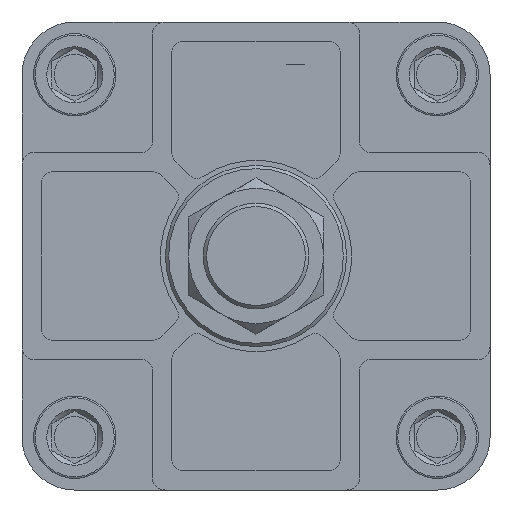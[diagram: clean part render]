
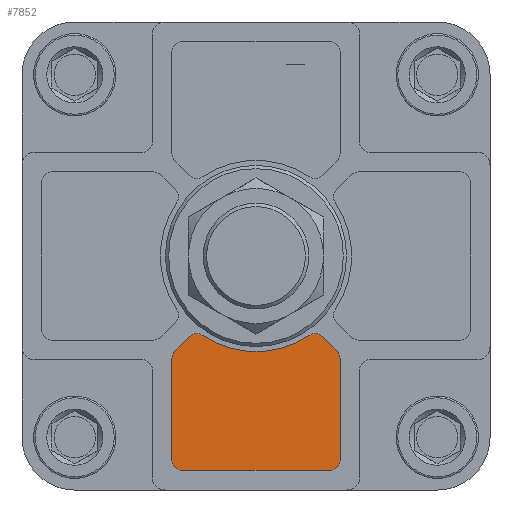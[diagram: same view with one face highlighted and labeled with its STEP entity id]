
A CAD part, front view. The second image highlights one B-rep face of the part: STEP entity #7852.
In plain terms, the highlighted planar face has unit normal (0, -1, 0).
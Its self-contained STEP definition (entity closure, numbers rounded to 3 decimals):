
#277=CIRCLE('',#8267,3.);
#278=CIRCLE('',#8268,3.);
#279=CIRCLE('',#8269,3.);
#280=CIRCLE('',#8270,3.);
#281=CIRCLE('',#8271,3.);
#282=CIRCLE('',#8272,29.);
#283=CIRCLE('',#8273,3.);
#667=ORIENTED_EDGE('',*,*,#2324,.F.);
#668=ORIENTED_EDGE('',*,*,#2325,.T.);
#669=ORIENTED_EDGE('',*,*,#2326,.F.);
#670=ORIENTED_EDGE('',*,*,#2327,.T.);
#671=ORIENTED_EDGE('',*,*,#2328,.F.);
#672=ORIENTED_EDGE('',*,*,#2329,.T.);
#673=ORIENTED_EDGE('',*,*,#2330,.F.);
#674=ORIENTED_EDGE('',*,*,#2331,.T.);
#675=ORIENTED_EDGE('',*,*,#2332,.F.);
#676=ORIENTED_EDGE('',*,*,#2333,.T.);
#677=ORIENTED_EDGE('',*,*,#2334,.F.);
#678=ORIENTED_EDGE('',*,*,#2335,.T.);
#2324=EDGE_CURVE('',#3154,#3155,#3747,.T.);
#2325=EDGE_CURVE('',#3154,#3156,#277,.F.);
#2326=EDGE_CURVE('',#3157,#3156,#3748,.T.);
#2327=EDGE_CURVE('',#3157,#3158,#278,.F.);
#2328=EDGE_CURVE('',#3159,#3158,#3749,.T.);
#2329=EDGE_CURVE('',#3159,#3160,#279,.F.);
#2330=EDGE_CURVE('',#3161,#3160,#3750,.T.);
#2331=EDGE_CURVE('',#3161,#3162,#280,.F.);
#2332=EDGE_CURVE('',#3163,#3162,#3751,.T.);
#2333=EDGE_CURVE('',#3163,#3164,#281,.F.);
#2334=EDGE_CURVE('',#3165,#3164,#282,.T.);
#2335=EDGE_CURVE('',#3165,#3155,#283,.F.);
#3154=VERTEX_POINT('',#10944);
#3155=VERTEX_POINT('',#10945);
#3156=VERTEX_POINT('',#10947);
#3157=VERTEX_POINT('',#10949);
#3158=VERTEX_POINT('',#10951);
#3159=VERTEX_POINT('',#10953);
#3160=VERTEX_POINT('',#10955);
#3161=VERTEX_POINT('',#10957);
#3162=VERTEX_POINT('',#10959);
#3163=VERTEX_POINT('',#10961);
#3164=VERTEX_POINT('',#10963);
#3165=VERTEX_POINT('',#10965);
#3747=LINE('',#10943,#4213);
#3748=LINE('',#10948,#4214);
#3749=LINE('',#10952,#4215);
#3750=LINE('',#10956,#4216);
#3751=LINE('',#10960,#4217);
#4213=VECTOR('',#9028,1000.);
#4214=VECTOR('',#9031,1000.);
#4215=VECTOR('',#9034,1000.);
#4216=VECTOR('',#9037,1000.);
#4217=VECTOR('',#9040,1000.);
#4676=EDGE_LOOP('',(#667,#668,#669,#670,#671,#672,#673,#674,#675,#676,#677,
#678));
#5198=FACE_BOUND('',#4676,.T.);
#5714=PLANE('',#8266);
#7852=ADVANCED_FACE('',(#5198),#5714,.F.);
#8266=AXIS2_PLACEMENT_3D('',#10942,#9026,#9027);
#8267=AXIS2_PLACEMENT_3D('',#10946,#9029,#9030);
#8268=AXIS2_PLACEMENT_3D('',#10950,#9032,#9033);
#8269=AXIS2_PLACEMENT_3D('',#10954,#9035,#9036);
#8270=AXIS2_PLACEMENT_3D('',#10958,#9038,#9039);
#8271=AXIS2_PLACEMENT_3D('',#10962,#9041,#9042);
#8272=AXIS2_PLACEMENT_3D('',#10964,#9043,#9044);
#8273=AXIS2_PLACEMENT_3D('',#10966,#9045,#9046);
#9026=DIRECTION('',(0.,1.,0.));
#9027=DIRECTION('',(0.,0.,1.));
#9028=DIRECTION('',(0.707,0.,0.707));
#9029=DIRECTION('',(0.,1.,0.));
#9030=DIRECTION('',(0.,0.,1.));
#9031=DIRECTION('',(0.,0.,1.));
#9032=DIRECTION('',(0.,1.,0.));
#9033=DIRECTION('',(0.,0.,1.));
#9034=DIRECTION('',(-1.,0.,0.));
#9035=DIRECTION('',(0.,1.,0.));
#9036=DIRECTION('',(0.,0.,1.));
#9037=DIRECTION('',(0.,0.,-1.));
#9038=DIRECTION('',(0.,1.,0.));
#9039=DIRECTION('',(0.,0.,1.));
#9040=DIRECTION('',(0.707,0.,-0.707));
#9041=DIRECTION('',(0.,1.,0.));
#9042=DIRECTION('',(0.,0.,1.));
#9043=DIRECTION('',(0.,-1.,0.));
#9044=DIRECTION('',(1.,0.,0.));
#9045=DIRECTION('',(0.,1.,0.));
#9046=DIRECTION('',(0.,0.,1.));
#10942=CARTESIAN_POINT('',(0.,-29.,0.));
#10943=CARTESIAN_POINT('',(-18.275,-29.,-22.517));
#10944=CARTESIAN_POINT('',(-24.621,-29.,-28.864));
#10945=CARTESIAN_POINT('',(-20.105,-29.,-24.347));
#10946=CARTESIAN_POINT('',(-22.5,-29.,-30.985));
#10947=CARTESIAN_POINT('',(-25.5,-29.,-30.985));
#10948=CARTESIAN_POINT('',(-25.5,-29.,-31.5));
#10949=CARTESIAN_POINT('',(-25.5,-29.,-62.));
#10950=CARTESIAN_POINT('',(-22.5,-29.,-62.));
#10951=CARTESIAN_POINT('',(-22.5,-29.,-65.));
#10952=CARTESIAN_POINT('',(-25.5,-29.,-65.));
#10953=CARTESIAN_POINT('',(22.5,-29.,-65.));
#10954=CARTESIAN_POINT('',(22.5,-29.,-62.));
#10955=CARTESIAN_POINT('',(25.5,-29.,-62.));
#10956=CARTESIAN_POINT('',(25.5,-29.,-65.));
#10957=CARTESIAN_POINT('',(25.5,-29.,-30.985));
#10958=CARTESIAN_POINT('',(22.5,-29.,-30.985));
#10959=CARTESIAN_POINT('',(24.621,-29.,-28.864));
#10960=CARTESIAN_POINT('',(18.275,-29.,-22.517));
#10961=CARTESIAN_POINT('',(20.105,-29.,-24.347));
#10962=CARTESIAN_POINT('',(17.983,-29.,-26.469));
#10963=CARTESIAN_POINT('',(16.298,-29.,-23.987));
#10964=CARTESIAN_POINT('',(0.,-29.,0.));
#10965=CARTESIAN_POINT('',(-16.298,-29.,-23.987));
#10966=CARTESIAN_POINT('',(-17.983,-29.,-26.469));
